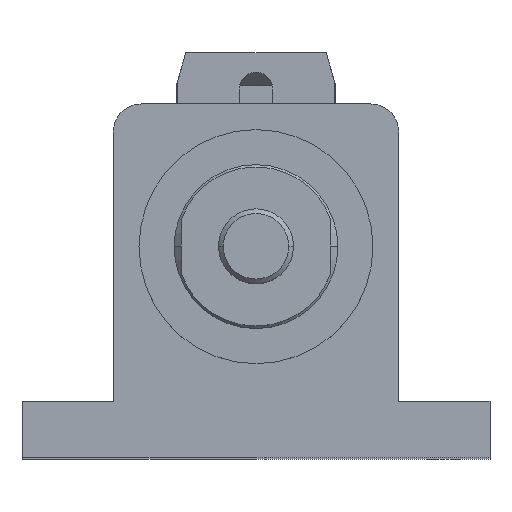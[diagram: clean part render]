
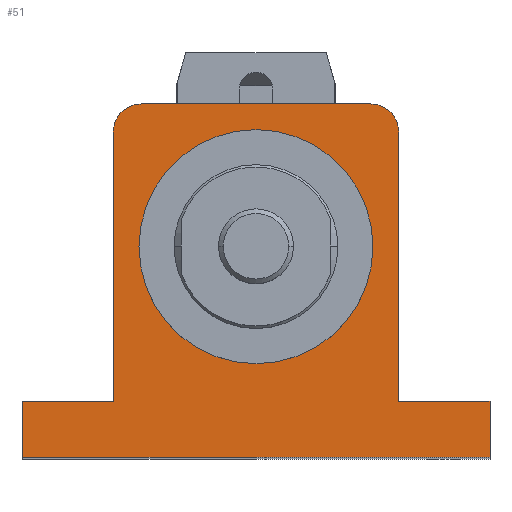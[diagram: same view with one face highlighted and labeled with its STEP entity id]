
A CAD part, top view. The second image highlights one B-rep face of the part: STEP entity #51.
In plain terms, the highlighted planar face has unit normal (0, 0, 1).
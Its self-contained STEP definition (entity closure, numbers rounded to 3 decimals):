
#51 = ADVANCED_FACE ( 'NONE', ( #6546, #9502 ), #9465, .F. ) ;
#500 = CARTESIAN_POINT ( 'NONE',  ( -24.5, 30.5, 197. ) ) ;
#591 = CARTESIAN_POINT ( 'NONE',  ( -50., -45., 197. ) ) ;
#794 = VECTOR ( 'NONE', #16775, 1000. ) ;
#908 = AXIS2_PLACEMENT_3D ( 'NONE', #2005, #20916, #11485 ) ;
#1126 = VERTEX_POINT ( 'NONE', #3036 ) ;
#1262 = LINE ( 'NONE', #24049, #17497 ) ;
#1280 = ORIENTED_EDGE ( 'NONE', *, *, #2843, .T. ) ;
#1631 = DIRECTION ( 'NONE',  ( -1., 0., 0. ) ) ;
#1641 = VERTEX_POINT ( 'NONE', #5000 ) ;
#1916 = ORIENTED_EDGE ( 'NONE', *, *, #15344, .T. ) ;
#2005 = CARTESIAN_POINT ( 'NONE',  ( 0., 0., 197. ) ) ;
#2218 = DIRECTION ( 'NONE',  ( 1., 0., 0. ) ) ;
#2428 = CARTESIAN_POINT ( 'NONE',  ( -24.5, 30.5, 197. ) ) ;
#2564 = CIRCLE ( 'NONE', #20656, 6. ) ;
#2579 = ORIENTED_EDGE ( 'NONE', *, *, #2757, .T. ) ;
#2757 = EDGE_CURVE ( 'NONE', #17846, #12642, #6996, .T. ) ;
#2843 = EDGE_CURVE ( 'NONE', #12809, #21056, #2564, .T. ) ;
#3036 = CARTESIAN_POINT ( 'NONE',  ( -50., -45., 197. ) ) ;
#3092 = ORIENTED_EDGE ( 'NONE', *, *, #4029, .T. ) ;
#3174 = DIRECTION ( 'NONE',  ( 0., -1., 0. ) ) ;
#3545 = VERTEX_POINT ( 'NONE', #14873 ) ;
#3609 = LINE ( 'NONE', #18078, #15405 ) ;
#3619 = EDGE_CURVE ( 'NONE', #1641, #20025, #10213, .T. ) ;
#4029 = EDGE_CURVE ( 'NONE', #7619, #20486, #22027, .T. ) ;
#5000 = CARTESIAN_POINT ( 'NONE',  ( 50., -45., 197. ) ) ;
#5438 = CARTESIAN_POINT ( 'NONE',  ( -30.5, 24.5, 197. ) ) ;
#6546 = FACE_BOUND ( 'NONE', #11913, .T. ) ;
#6792 = LINE ( 'NONE', #591, #23041 ) ;
#6996 = LINE ( 'NONE', #22510, #14067 ) ;
#7037 = CARTESIAN_POINT ( 'NONE',  ( 24.5, 24.5, 197. ) ) ;
#7076 = CARTESIAN_POINT ( 'NONE',  ( 30.5, -33., 197. ) ) ;
#7460 = DIRECTION ( 'NONE',  ( 0., 0., -1. ) ) ;
#7619 = VERTEX_POINT ( 'NONE', #16814 ) ;
#7713 = CARTESIAN_POINT ( 'NONE',  ( 25., 0., 197. ) ) ;
#7722 = DIRECTION ( 'NONE',  ( -1., 0., 0. ) ) ;
#7808 = DIRECTION ( 'NONE',  ( 0., 0., 1. ) ) ;
#7839 = EDGE_CURVE ( 'NONE', #21730, #18525, #18386, .T. ) ;
#7916 = VECTOR ( 'NONE', #14248, 1000. ) ;
#7917 = EDGE_LOOP ( 'NONE', ( #1916, #2579, #20478, #23792, #8578, #7928, #12091, #3092, #20504, #1280 ) ) ;
#7928 = ORIENTED_EDGE ( 'NONE', *, *, #18892, .T. ) ;
#8107 = AXIS2_PLACEMENT_3D ( 'NONE', #24411, #7460, #9376 ) ;
#8243 = CARTESIAN_POINT ( 'NONE',  ( 30.5, 24.5, 197. ) ) ;
#8578 = ORIENTED_EDGE ( 'NONE', *, *, #3619, .T. ) ;
#9274 = CARTESIAN_POINT ( 'NONE',  ( 50., -33., 197. ) ) ;
#9376 = DIRECTION ( 'NONE',  ( -1., 0., 0. ) ) ;
#9411 = CARTESIAN_POINT ( 'NONE',  ( -25., 0., 197. ) ) ;
#9465 = PLANE ( 'NONE',  #8107 ) ;
#9502 = FACE_OUTER_BOUND ( 'NONE', #7917, .T. ) ;
#10213 = LINE ( 'NONE', #18446, #794 ) ;
#10576 = VECTOR ( 'NONE', #21553, 1000. ) ;
#11197 = VECTOR ( 'NONE', #17566, 1000. ) ;
#11355 = ORIENTED_EDGE ( 'NONE', *, *, #11703, .F. ) ;
#11485 = DIRECTION ( 'NONE',  ( 1., 0., 0. ) ) ;
#11486 = CARTESIAN_POINT ( 'NONE',  ( 24.5, 30.5, 197. ) ) ;
#11703 = EDGE_CURVE ( 'NONE', #18525, #21730, #13852, .T. ) ;
#11913 = EDGE_LOOP ( 'NONE', ( #11355, #19926 ) ) ;
#12042 = LINE ( 'NONE', #500, #10576 ) ;
#12091 = ORIENTED_EDGE ( 'NONE', *, *, #17049, .T. ) ;
#12332 = EDGE_CURVE ( 'NONE', #20486, #12809, #12042, .T. ) ;
#12642 = VERTEX_POINT ( 'NONE', #16377 ) ;
#12809 = VERTEX_POINT ( 'NONE', #2428 ) ;
#12912 = LINE ( 'NONE', #7076, #7916 ) ;
#13355 = DIRECTION ( 'NONE',  ( 0., 0., 1. ) ) ;
#13851 = DIRECTION ( 'NONE',  ( 0., -1., 0. ) ) ;
#13852 = CIRCLE ( 'NONE', #908, 25. ) ;
#14067 = VECTOR ( 'NONE', #1631, 1000. ) ;
#14248 = DIRECTION ( 'NONE',  ( -1., 0., 0. ) ) ;
#14873 = CARTESIAN_POINT ( 'NONE',  ( 30.5, -33., 197. ) ) ;
#15344 = EDGE_CURVE ( 'NONE', #21056, #17846, #1262, .T. ) ;
#15405 = VECTOR ( 'NONE', #16159, 1000. ) ;
#15757 = EDGE_CURVE ( 'NONE', #1126, #1641, #3609, .T. ) ;
#16159 = DIRECTION ( 'NONE',  ( 1., 0., 0. ) ) ;
#16377 = CARTESIAN_POINT ( 'NONE',  ( -50., -33., 197. ) ) ;
#16775 = DIRECTION ( 'NONE',  ( 0., 1., 0. ) ) ;
#16814 = CARTESIAN_POINT ( 'NONE',  ( 30.5, 24.5, 197. ) ) ;
#17049 = EDGE_CURVE ( 'NONE', #3545, #7619, #21589, .T. ) ;
#17102 = EDGE_CURVE ( 'NONE', #12642, #1126, #6792, .T. ) ;
#17497 = VECTOR ( 'NONE', #3174, 1000. ) ;
#17566 = DIRECTION ( 'NONE',  ( 0., 1., 0. ) ) ;
#17846 = VERTEX_POINT ( 'NONE', #20485 ) ;
#18078 = CARTESIAN_POINT ( 'NONE',  ( 50., -45., 197. ) ) ;
#18386 = CIRCLE ( 'NONE', #18700, 25. ) ;
#18446 = CARTESIAN_POINT ( 'NONE',  ( 50., -33., 197. ) ) ;
#18525 = VERTEX_POINT ( 'NONE', #9411 ) ;
#18700 = AXIS2_PLACEMENT_3D ( 'NONE', #22866, #13355, #2218 ) ;
#18892 = EDGE_CURVE ( 'NONE', #20025, #3545, #12912, .T. ) ;
#19926 = ORIENTED_EDGE ( 'NONE', *, *, #7839, .F. ) ;
#20025 = VERTEX_POINT ( 'NONE', #9274 ) ;
#20478 = ORIENTED_EDGE ( 'NONE', *, *, #17102, .T. ) ;
#20485 = CARTESIAN_POINT ( 'NONE',  ( -30.5, -33., 197. ) ) ;
#20486 = VERTEX_POINT ( 'NONE', #11486 ) ;
#20504 = ORIENTED_EDGE ( 'NONE', *, *, #12332, .T. ) ;
#20656 = AXIS2_PLACEMENT_3D ( 'NONE', #20956, #7808, #7722 ) ;
#20916 = DIRECTION ( 'NONE',  ( 0., 0., 1. ) ) ;
#20956 = CARTESIAN_POINT ( 'NONE',  ( -24.5, 24.5, 197. ) ) ;
#21056 = VERTEX_POINT ( 'NONE', #5438 ) ;
#21553 = DIRECTION ( 'NONE',  ( -1., 0., 0. ) ) ;
#21589 = LINE ( 'NONE', #8243, #11197 ) ;
#21730 = VERTEX_POINT ( 'NONE', #7713 ) ;
#21989 = DIRECTION ( 'NONE',  ( 0., 0., 1. ) ) ;
#22027 = CIRCLE ( 'NONE', #22117, 6. ) ;
#22117 = AXIS2_PLACEMENT_3D ( 'NONE', #7037, #21989, #23958 ) ;
#22510 = CARTESIAN_POINT ( 'NONE',  ( -50., -33., 197. ) ) ;
#22866 = CARTESIAN_POINT ( 'NONE',  ( 0., 0., 197. ) ) ;
#23041 = VECTOR ( 'NONE', #13851, 1000. ) ;
#23792 = ORIENTED_EDGE ( 'NONE', *, *, #15757, .T. ) ;
#23958 = DIRECTION ( 'NONE',  ( -1., 0., 0. ) ) ;
#24049 = CARTESIAN_POINT ( 'NONE',  ( -30.5, -33., 197. ) ) ;
#24411 = CARTESIAN_POINT ( 'NONE',  ( -24.5, 24.5, 197. ) ) ;
